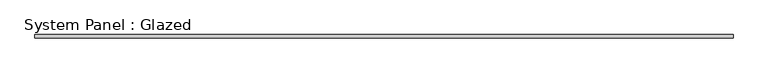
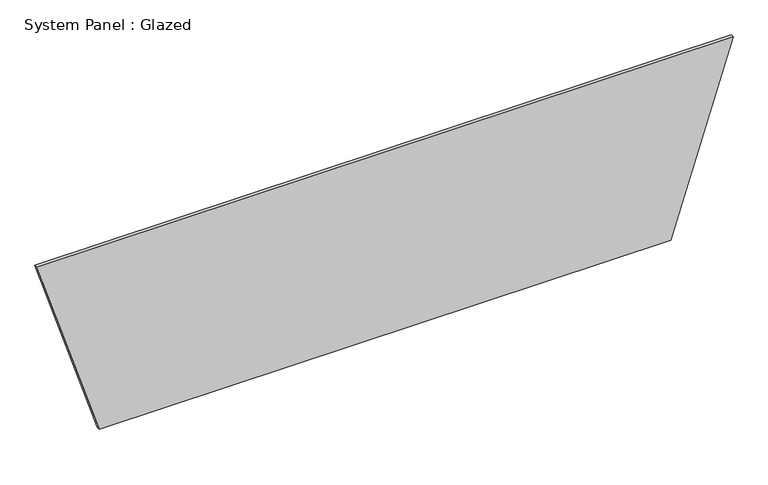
"""IFC4 building model written with IfcOpenShell, lengths in millimetres: plate geometry, System Panel : Glazed."""

from ifc_helpers import new_model, si_unit, frame, origin, place, context, project, spatial, polyline, outline, extrude, source, transform, mapped, element, save


def system_panel_glazed_b4e5deec(model_context):
    return source(origin(), model_context, "Body", "SweptSolid", [
        extrude(outline(polyline([(0.0, -2039.835153), (0.0, 2039.835153), (1377.5998939, 2484.1001082), (1377.5998939, -2484.1001082), (0.0, -2039.835153)])), frame((0.0, -49.5, 0.0), z_axis=(0.0, 1.0, 0.0), x_axis=(0.0, 0.0, 1.0)), (0.0, 0.0, 1.0), 25.0),
    ])


if __name__ == "__main__":
    model = new_model("IFC4")
    model_context = context("Model", 3, world=origin())
    ifc_project = project(units=[si_unit("LENGTHUNIT", "METRE", prefix="MILLI")], contexts=[model_context])
    site = spatial("IfcSite", under=ifc_project)
    building = spatial("IfcBuilding", under=site)
    placement = place(None, origin())
    system_panel_glazed_shape = system_panel_glazed_b4e5deec(model_context)
    element("IfcPlate", 1, ObjectType="System Panel : Glazed", at=placement, inside=building, context=model_context, shape_type="MappedRepresentation", body=[
        mapped(system_panel_glazed_shape, transform((0.0, 0.0, 0.0), x_axis=(1.0, 0.0, 0.0), y_axis=(0.0, 1.0, 0.0), z_axis=(0.0, 0.0, 1.0))),
    ])
    save(model, "model.ifc")
